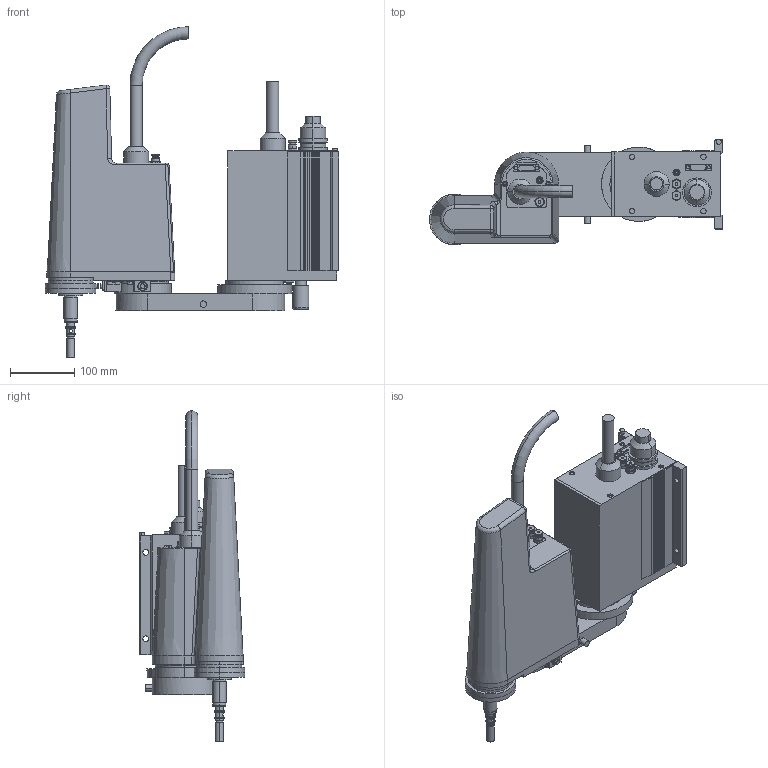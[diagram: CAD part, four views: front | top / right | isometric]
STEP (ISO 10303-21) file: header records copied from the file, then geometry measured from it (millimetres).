
FILE_DESCRIPTION(('modularis output'),'2;1');
FILE_NAME('YK300XS-150.stp','14:13:04 2005/12/01',( 'modularis software ag'),('modularis software ag'), 'unknown preprocess','ACIS','unknown authorization');
FILE_SCHEMA(('AUTOMOTIVE_DESIGN_CC2 {UNKNOWN IMPLEMENTATION LEVEL}'));
Length unit declared in the file: millimetre
Products named in the file (4): PRODUCT_ID_57; PRODUCT_ID_58; PRODUCT_ID_59; PRODUCT_ID_60
Bounding box: 457.7 x 164.5 x 516 mm (x, y, z)
Volume: 8551169.2 mm3; surface area: 498305.2 mm2
Topology: 4 solids, 4 shells, 867 faces, 2024 edges, 1273 vertices
Faces by surface type: plane 377, cylinder 278, cone 180, bspline 22, torus 10
Entity records: 24361 total; most frequent: CARTESIAN_POINT 6895, ORIENTED_EDGE 4030, DIRECTION 2863, EDGE_CURVE 2015, VERTEX_POINT 1273, EDGE_LOOP 998, FACE_BOUND 998, AXIS2_PLACEMENT_3D 962
